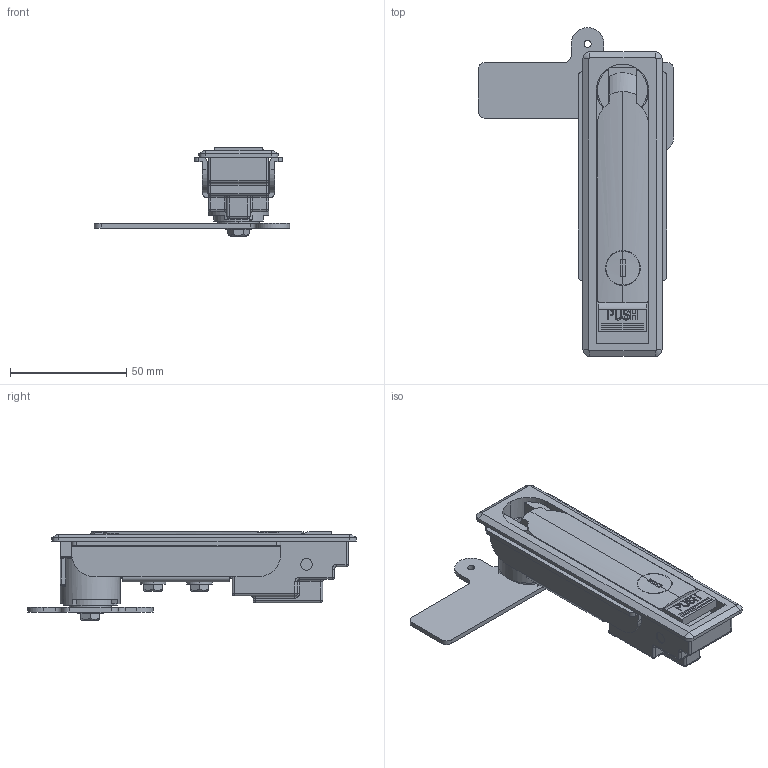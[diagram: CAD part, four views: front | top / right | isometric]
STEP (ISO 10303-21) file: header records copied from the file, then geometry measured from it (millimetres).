
FILE_DESCRIPTION (( 'STEP AP203' ), '1' );
FILE_NAME ('SK1-094-2.STEP', '2019-01-23T06:41:43', ( 'admin' ), ( 'Microsoft' ), 'SwSTEP 2.0', 'SolidWorks 2018', '' );
FILE_SCHEMA (( 'CONFIG_CONTROL_DESIGN' ));
Length unit declared in the file: millimetre
Products named in the file (7): SK1-094-2; SK1-094-2參忒; SK1-094-2菜え; SK1-094-2蜇璃; 带垫片十字M5公称长度10; SK1-094-2坶え
Assembly tree (8 placements, depth 2):
  SK1-094-2
    SK1-094-2
    SK1-094-2參忒
    SK1-094-2菜え
    SK1-094-2蜇璃
    带垫片十字M5公称长度10  x3
    SK1-094-2坶え
Bounding box: 84 x 141.5 x 38 mm (x, y, z)
Volume: 78165.8 mm3; surface area: 46579.9 mm2
Topology: 9 solids, 9 shells, 633 faces, 1619 edges, 994 vertices
Faces by surface type: plane 266, cylinder 248, bspline 51, cone 25, torus 24, sphere 19
Entity records: 19901 total; most frequent: CARTESIAN_POINT 7222, ORIENTED_EDGE 2532, DIRECTION 2409, EDGE_CURVE 1266, AXIS2_PLACEMENT_3D 841, VERTEX_POINT 788, LINE 727, VECTOR 727
